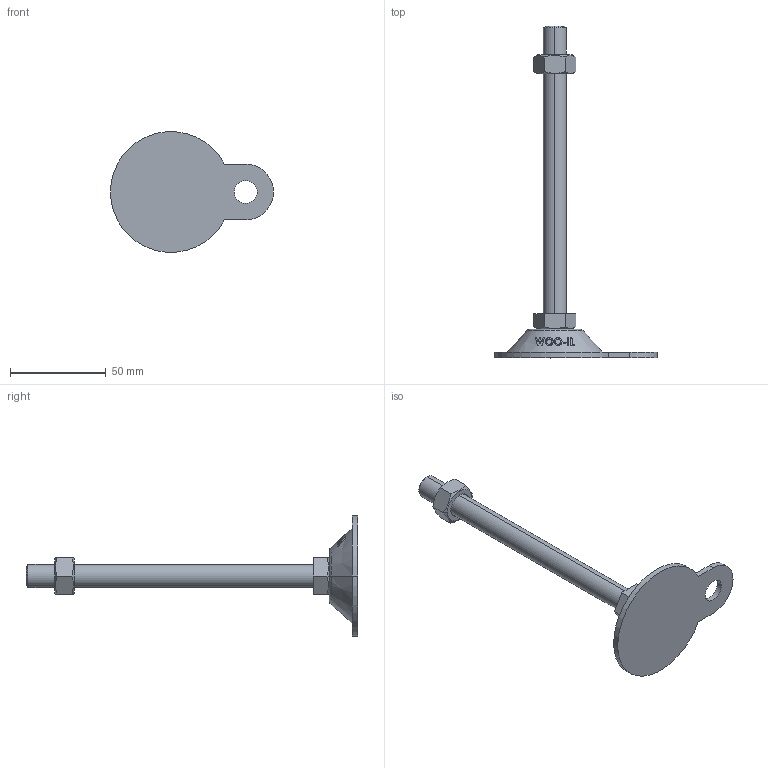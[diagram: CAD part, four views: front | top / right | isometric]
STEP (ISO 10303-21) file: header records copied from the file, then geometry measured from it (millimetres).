
FILE_DESCRIPTION (( 'STEP AP214' ), '1' );
FILE_NAME ('ABL63-M12-150.step', '2021-02-05T04:19:03', ( '' ), ( '' ), 'SwSTEP 2.0', 'SolidWorks 2019', '' );
FILE_SCHEMA (( 'AUTOMOTIVE_DESIGN' ));
Length unit declared in the file: millimetre
Products named in the file (2): ABL63-M12-150
Bounding box: 85 x 173 x 62.83 mm (x, y, z)
Volume: 46788.7 mm3; surface area: 16313.9 mm2
Topology: 2 solids, 2 shells, 128 faces, 325 edges, 212 vertices
Faces by surface type: plane 48, cylinder 38, cone 22, bspline 18, torus 2
Entity records: 5459 total; most frequent: CARTESIAN_POINT 2573, ORIENTED_EDGE 650, DIRECTION 473, EDGE_CURVE 325, VERTEX_POINT 212, AXIS2_PLACEMENT_3D 176, EDGE_LOOP 143, B_SPLINE_CURVE_WITH_KNOTS 140
